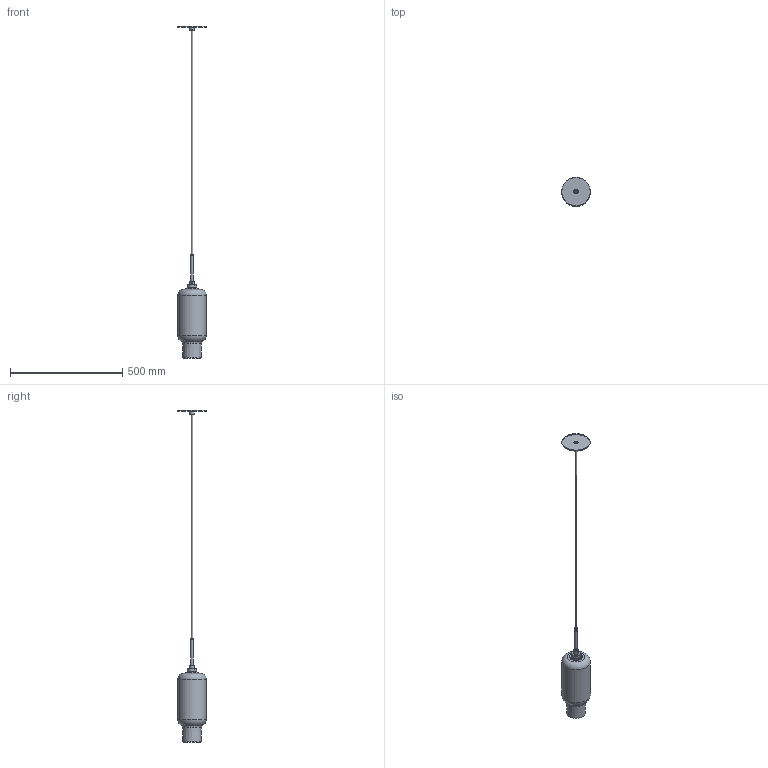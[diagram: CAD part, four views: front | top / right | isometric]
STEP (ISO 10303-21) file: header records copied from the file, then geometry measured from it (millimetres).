
FILE_DESCRIPTION(/* description */ (''),/* implementation_level */ '2;1');
FILE_NAME(/* name */ 'C:/Users/zach/Niche/Product Development - Documents/CAD Models/Pendants/Pharos/CAD Models/Glass - Luxe Hardware/Niche - Pharos Pendant.step',/* time_stamp */ '2022-07-29T16:11:19-04:00',/* author */ (''),/* organization */ (''),/* preprocessor_version */ 'ST-DEVELOPER v19',/* originating_system */ 'Autodesk Translation Framework v11.7.0.108',/* authorisation */ '');
FILE_SCHEMA (('AUTOMOTIVE_DESIGN { 1 0 10303 214 3 1 1 }'));
Length unit declared in the file: inch
Products named in the file (1): Pharos
Bounding box: 127 x 127 x 1475.74 mm (x, y, z)
Volume: 820769.4 mm3; surface area: 351577.8 mm2
Topology: 11 solids, 11 shells, 195 faces, 489 edges, 322 vertices
Faces by surface type: cylinder 126, plane 49, bspline 9, torus 6, cone 4, sphere 1
Full cylindrical faces by diameter (mm): 4.529 x1, 5.08 x1, 6.096 x1, 6.35 x1, 6.5 x1, 7.62 x1, 7.744 x7, 8.036 x15, 8.852 x1, 8.884 x8, 9.035 x1, 9.146 x11, 10.16 x1, 12.7 x2, 19.05 x1, 19.2 x1, 25.4 x1, 26.022 x1, 34.97 x1, 35.052 x9, 37.85 x8, 39 x1, 39.35 x1, 41.035 x1, 41.2 x1, 41.884 x1, 44 x1, 44.45 x1, 55 x2, 117 x1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
Entity records: 14257 total; most frequent: CARTESIAN_POINT 9866, ORIENTED_EDGE 976, DIRECTION 742, EDGE_CURVE 488, VERTEX_POINT 322, AXIS2_PLACEMENT_3D 285, EDGE_LOOP 226, B_SPLINE_CURVE_WITH_KNOTS 218
